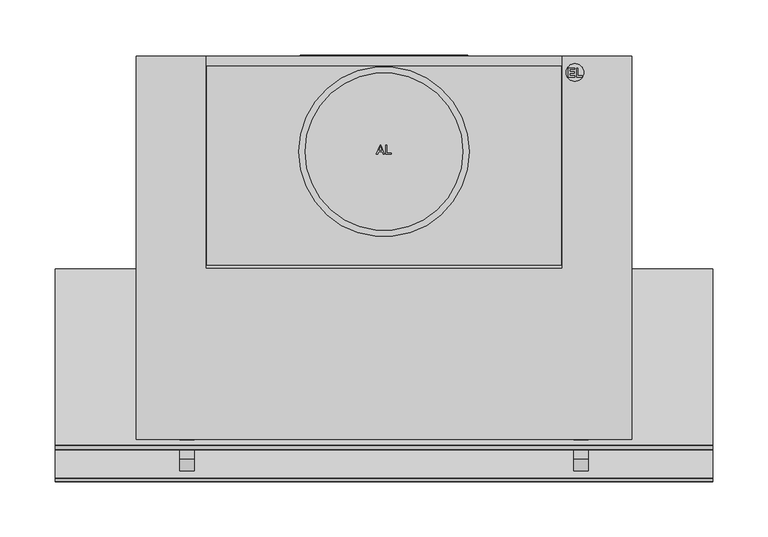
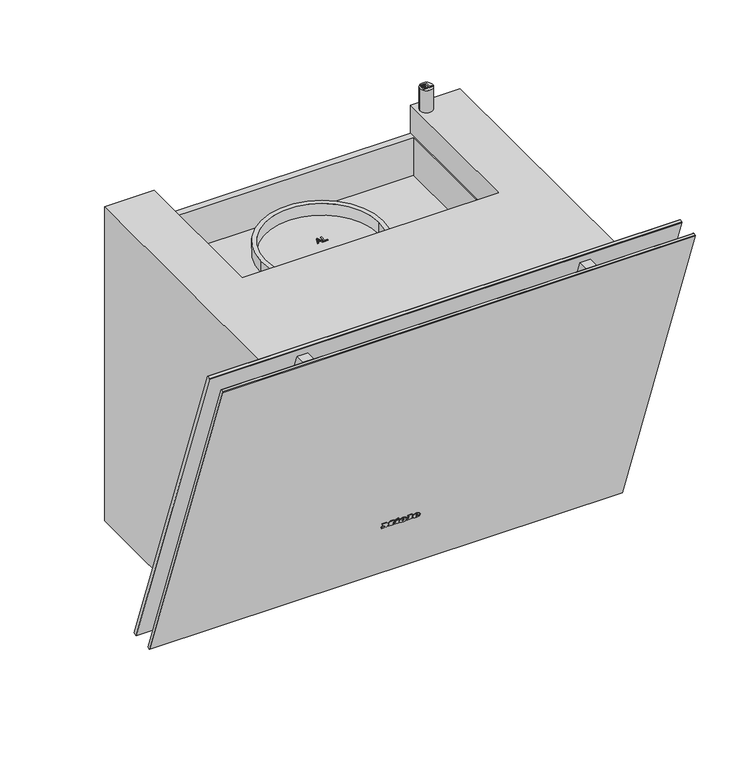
"""IFC4 building model written with IfcOpenShell, lengths in millimetres: proxy geometry, 12533930_D_DAH2660_GRGR : 28H2660G_D_12533930_DAH2660_GRGR."""

from ifc_helpers import new_model, si_unit, point, frame, frame_2d, origin, origin_with_axes, place, context, project, spatial, polyline, circle_curve, ellipse_curve, trimmed, segment, composite_curve, outline, extrude, faceted_brep, source, transform, mapped, element, save
from ifc_brep_helpers import plane_surface, cylinder_surface, revolved_surface, extruded_surface, advanced_brep


def specialty_equipment_7f73bf36(model_context):
    return source(origin(), model_context, "Body", "SolidModel", [
        extrude(outline(polyline([(0.0, 0.0), (0.968, 0.0), (0.968, 5.352), (0.0, 5.352), (0.0, 6.696), (3.52, 6.696), (3.52, 5.352), (2.56, 5.352), (2.56, 1.9488753), (6.136, 6.696), (9.728, 1.8807777), (9.728, 5.352), (8.744, 5.352), (8.744, 6.696), (15.128, 6.696), (15.128, 5.352), (14.112, 5.352), (14.112, 0.0), (15.128, 0.0), (15.128, -1.304), (10.256, -1.304), (7.92, 1.696), (5.576, -1.304), (0.0, -1.304), (0.0, 0.0)])), frame((-24.271984, -261.1380975, 82.2921818), z_axis=(0.0, 0.9396926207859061, 0.34202014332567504), x_axis=(1.0, 0.0, 0.0)), (0.0, 0.0, 1.0), 1.0),
        extrude(outline(polyline([(0.0, 0.0), (0.96, 0.0), (0.96, 5.352), (0.0, 5.352), (0.0, 6.696), (6.488, 6.696), (6.488, 5.352), (5.504, 5.352), (5.504, -1.304), (0.0, -1.304), (0.0, 0.0)])), frame((8.192016, -261.1380975, 82.2921818), z_axis=(0.0, 0.9396926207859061, 0.34202014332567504), x_axis=(1.0, 0.0, 0.0)), (0.0, 0.0, 1.0), 1.0),
        extrude(outline(polyline([(0.0, 0.0), (1.4315306, 0.0), (1.4390414, -2.9920869), (0.0109086, -2.9993294), (0.0, 0.0)])), frame((-6.351984, -261.4226582, 83.074006), z_axis=(0.0, 0.9396926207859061, 0.342020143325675), x_axis=(0.42472021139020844, 0.30963927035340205, -0.8507269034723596)), (0.0, 0.0, 1.0), 1.0),
        extrude(outline(polyline([(0.4933907, 2.4141097), (1.7898156, 3.022309), (2.1941493, 2.1604399), (5.1636141, 3.5535222), (4.7592805, 4.4153913), (5.9760369, 4.9862153), (8.6568708, -0.728194), (7.4401145, -1.299018), (7.0459741, -0.4588767), (2.7800843, -2.4601583), (0.4933907, 2.4141097)])), frame((-6.351984, -261.4226582, 83.074006), z_axis=(0.0, 0.9396926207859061, 0.342020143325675), x_axis=(0.42472021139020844, 0.30963927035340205, -0.8507269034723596)), (0.0, 0.0, 1.0), 1.0),
        advanced_brep(
        [(2.392016, -259.4964008, 77.7816572), (2.392016, -259.7727531, 78.5409288), (7.744016, -259.7727531, 78.5409288), (-1.567984, -259.7727531, 78.5409288), (0.632016, -258.8479306, 76.0), (7.608016, -259.4964008, 77.7816572), (5.192016, -259.4964008, 77.7816572), (3.288016, -259.1899507, 76.9396926), (2.392016, -260.1229817, 79.5031741), (2.392016, -260.4212233, 80.3225861), (3.760016, -260.4212233, 80.3225861), (3.760016, -260.1229817, 79.5031741), (2.392016, -258.5567082, 78.1236774), (3.288016, -258.2502581, 77.2817128), (5.192016, -258.5567082, 78.1236774), (7.608016, -258.5567082, 78.1236774), (0.632016, -257.908238, 76.3420201), (-1.567984, -258.8330604, 78.882949), (7.744016, -258.8330604, 78.882949), (2.392016, -258.8330604, 78.882949), (2.392016, -259.1832891, 79.8451942), (3.760016, -259.1832891, 79.8451942), (3.760016, -259.4815306, 80.6646062), (2.392016, -259.4815306, 80.6646062)],
        [
            (0, 1),
            (1, 2),
            (2, 3, ellipse_curve(frame((3.088016, -259.7727531, 78.5409288), z_axis=(0.0, -0.9396926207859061, -0.34202014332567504), x_axis=(-1.0, 0.0, 0.0)), 4.656, 3.848)),
            (3, 4, circle_curve(frame((1.5280596, -259.8657825, 78.7965252), z_axis=(0.0, -0.9396926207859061, -0.34202014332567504), x_axis=(0.0, 0.34202014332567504, -0.9396926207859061)), 3.1079688)),
            (4, 5, circle_curve(frame((2.9948096, -260.5881291, 80.7811561), z_axis=(0.0, -0.9396926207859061, -0.34202014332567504), x_axis=(0.0, 0.34202014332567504, -0.9396926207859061)), 5.6098607)),
            (5, 6),
            (6, 7, circle_curve(frame((3.6790748, -259.7508638, 78.4807885), z_axis=(0.0, 0.9396926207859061, 0.34202014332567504), x_axis=(0.0, 0.34202014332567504, -0.9396926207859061)), 1.6859795)),
            (7, 0, circle_curve(frame((3.288016, -259.4964008, 77.7816572), z_axis=(0.0, 0.9396926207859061, 0.34202014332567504), x_axis=(0.0, 0.34202014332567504, -0.9396926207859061)), 0.896)),
            (8, 9),
            (9, 10, circle_curve(frame((3.076016, -260.4212233, 80.3225861), z_axis=(0.0, 0.9396926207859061, 0.34202014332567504), x_axis=(0.0, 0.34202014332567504, -0.9396926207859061)), 0.684)),
            (10, 11),
            (11, 8),
            (12, 13, circle_curve(frame((3.288016, -258.5567082, 78.1236774), z_axis=(0.0, -0.9396926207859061, -0.34202014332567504), x_axis=(0.0, 0.34202014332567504, -0.9396926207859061)), 0.896)),
            (13, 14, circle_curve(frame((3.6790748, -258.8111712, 78.8228087), z_axis=(0.0, -0.9396926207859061, -0.34202014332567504), x_axis=(0.0, 0.34202014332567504, -0.9396926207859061)), 1.6859795)),
            (14, 15),
            (15, 16, circle_curve(frame((2.9948096, -259.6484365, 81.1231762), z_axis=(0.0, 0.9396926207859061, 0.34202014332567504), x_axis=(0.0, 0.34202014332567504, -0.9396926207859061)), 5.6098607)),
            (16, 17, circle_curve(frame((1.5280596, -258.9260899, 79.1385454), z_axis=(0.0, 0.9396926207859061, 0.34202014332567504), x_axis=(0.0, 0.34202014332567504, -0.9396926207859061)), 3.1079688)),
            (17, 18, ellipse_curve(frame((3.088016, -258.8330604, 78.882949), z_axis=(0.0, 0.9396926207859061, 0.34202014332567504), x_axis=(-1.0, 0.0, 0.0)), 4.656, 3.848)),
            (18, 19),
            (19, 12),
            (20, 21),
            (21, 22),
            (22, 23, circle_curve(frame((3.076016, -259.4815306, 80.6646062), z_axis=(0.0, -0.9396926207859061, -0.34202014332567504), x_axis=(0.0, 0.34202014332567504, -0.9396926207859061)), 0.684)),
            (23, 20),
            (0, 12),
            (19, 1),
            (18, 2),
            (5, 15),
            (14, 6),
            (17, 3),
            (13, 7),
            (16, 4),
            (8, 20),
            (23, 9),
            (22, 10),
            (21, 11),
        ],
        [
            plane_surface(frame((2.392016, -259.7727531, 78.5409288), z_axis=(0.0, -0.9396926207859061, -0.34202014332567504), x_axis=(0.0, -0.34202014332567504, 0.9396926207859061))),
            plane_surface(frame((2.392016, -258.8330604, 78.882949), z_axis=(0.0, 0.9396926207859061, 0.34202014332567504), x_axis=(0.0, 0.34202014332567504, -0.9396926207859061))),
            plane_surface(frame((2.392016, -259.4964008, 77.7816572), z_axis=(1.0, 0.0, 0.0), x_axis=(0.0, 0.9396926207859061, 0.34202014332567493))),
            plane_surface(frame((2.392016, -259.7727531, 78.5409288), z_axis=(0.0, 0.34202014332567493, -0.9396926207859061), x_axis=(0.0, 0.9396926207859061, 0.34202014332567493))),
            plane_surface(frame((7.608016, -259.4964008, 77.7816572), z_axis=(0.0, -0.34202014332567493, 0.9396926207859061), x_axis=(0.0, 0.9396926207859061, 0.34202014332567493))),
            extruded_surface(trimmed(ellipse_curve(frame((3.088016, -257.8933678, 79.2249691), z_axis=(0.0, -0.9396926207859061, -0.34202014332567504), x_axis=(-1.0, 0.0, 0.0)), 4.656, 3.848), [point((7.744016, -257.8933678, 79.2249691))], [point((-1.567984, -257.8933678, 79.2249691))], True, "CARTESIAN"), (0.0, -0.9396926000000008, -0.34202009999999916), 0.9999999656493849),
            revolved_surface(polyline([(3.6790748, -258.2345321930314, 77.23850622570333), (3.6790748, -259.1742248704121, 76.89648606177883)]), (3.6790748, -258.8111712, 78.8228087), (0.0, 0.9396926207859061, 0.34202014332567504)),
            revolved_surface(polyline([(3.288016, -258.25025810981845, 77.28171282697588), (3.288016, -259.1899507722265, 76.93969266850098)]), (3.288016, -258.5567082, 78.1236774), (0.0, 0.9396926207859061, 0.34202014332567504)),
            cylinder_surface(frame((1.5280596, -258.9260899, 79.1385454), z_axis=(0.0, -0.9396926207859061, -0.34202014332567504), x_axis=(0.0, 0.34202014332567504, -0.9396926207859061)), 3.1079688),
            cylinder_surface(frame((2.9948096, -259.6484365, 81.1231762), z_axis=(0.0, -0.9396926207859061, -0.34202014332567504), x_axis=(0.0, 0.34202014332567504, -0.9396926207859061)), 5.6098607),
            plane_surface(frame((2.392016, -260.1229817, 79.5031741), z_axis=(1.0, 0.0, 0.0), x_axis=(0.0, 0.9396926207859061, 0.34202014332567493))),
            revolved_surface(polyline([(3.076016, -259.2475888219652, 80.02185644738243), (3.076016, -260.1872814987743, 79.67983628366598)]), (3.076016, -259.4815306, 80.6646062), (0.0, 0.9396926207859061, 0.34202014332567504)),
            plane_surface(frame((3.760016, -260.4212233, 80.3225861), z_axis=(-1.0, 0.0, 0.0), x_axis=(0.0, 0.9396926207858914, 0.3420201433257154))),
            plane_surface(frame((3.760016, -260.1229817, 79.5031741), z_axis=(0.0, -0.34202014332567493, 0.9396926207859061), x_axis=(0.0, 0.9396926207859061, 0.34202014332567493))),
        ],
        [
            (0, [[1, 2, 3, 4, 5, 6, 7, 8], [9, 10, 11, 12]]),
            (1, [[13, 14, 15, 16, 17, 18, 19, 20], [21, 22, 23, 24]]),
            (2, [[-1, 25, -20, 26]]),
            (3, [[-2, -26, -19, 27]]),
            (4, [[-6, 28, -15, 29]]),
            (5, [[-3, -27, -18, 30]]),
            (6, [[-7, -29, -14, 31]]),
            (7, [[-8, -31, -13, -25]]),
            (8, [[-4, -30, -17, 32]]),
            (9, [[-5, -32, -16, -28]]),
            (10, [[-9, 33, -24, 34]]),
            (11, [[-10, -34, -23, 35]]),
            (12, [[-11, -35, -22, 36]]),
            (13, [[-12, -36, -21, -33]]),
        ],
    ),
        advanced_brep(
        [(19.088016, -259.4964008, 77.7816572), (19.088016, -259.7727531, 78.5409288), (24.440016, -259.7727531, 78.5409288), (15.128016, -259.7727531, 78.5409288), (17.328016, -258.8479306, 76.0), (24.304016, -259.4964008, 77.7816572), (21.888016, -259.4964008, 77.7816572), (19.984016, -259.1899507, 76.9396926), (19.088016, -260.1229817, 79.5031741), (19.088016, -260.4212233, 80.3225861), (20.456016, -260.4212233, 80.3225861), (20.456016, -260.1229817, 79.5031741), (19.088016, -258.5567082, 78.1236774), (19.984016, -258.2502581, 77.2817128), (21.888016, -258.5567082, 78.1236774), (24.304016, -258.5567082, 78.1236774), (17.328016, -257.908238, 76.3420201), (15.128016, -258.8330604, 78.882949), (24.440016, -258.8330604, 78.882949), (19.088016, -258.8330604, 78.882949), (19.088016, -259.1832891, 79.8451942), (20.456016, -259.1832891, 79.8451942), (20.456016, -259.4815306, 80.6646062), (19.088016, -259.4815306, 80.6646062)],
        [
            (0, 1),
            (1, 2),
            (2, 3, ellipse_curve(frame((19.784016, -259.7727531, 78.5409288), z_axis=(0.0, -0.9396926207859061, -0.34202014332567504), x_axis=(-1.0, 0.0, 0.0)), 4.656, 3.848)),
            (3, 4, circle_curve(frame((18.2240596, -259.8657825, 78.7965252), z_axis=(0.0, -0.9396926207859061, -0.34202014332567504), x_axis=(0.0, 0.34202014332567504, -0.9396926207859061)), 3.1079688)),
            (4, 5, circle_curve(frame((19.6908096, -260.5881291, 80.7811561), z_axis=(0.0, -0.9396926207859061, -0.34202014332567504), x_axis=(0.0, 0.34202014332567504, -0.9396926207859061)), 5.6098607)),
            (5, 6),
            (6, 7, circle_curve(frame((20.3750748, -259.7508638, 78.4807885), z_axis=(0.0, 0.9396926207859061, 0.34202014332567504), x_axis=(0.0, 0.34202014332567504, -0.9396926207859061)), 1.6859795)),
            (7, 0, circle_curve(frame((19.984016, -259.4964008, 77.7816572), z_axis=(0.0, 0.9396926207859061, 0.34202014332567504), x_axis=(0.0, 0.34202014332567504, -0.9396926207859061)), 0.896)),
            (8, 9),
            (9, 10, circle_curve(frame((19.772016, -260.4212233, 80.3225861), z_axis=(0.0, 0.9396926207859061, 0.34202014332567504), x_axis=(0.0, 0.34202014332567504, -0.9396926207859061)), 0.684)),
            (10, 11),
            (11, 8),
            (12, 13, circle_curve(frame((19.984016, -258.5567082, 78.1236774), z_axis=(0.0, -0.9396926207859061, -0.34202014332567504), x_axis=(0.0, 0.34202014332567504, -0.9396926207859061)), 0.896)),
            (13, 14, circle_curve(frame((20.3750748, -258.8111712, 78.8228087), z_axis=(0.0, -0.9396926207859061, -0.34202014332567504), x_axis=(0.0, 0.34202014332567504, -0.9396926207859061)), 1.6859795)),
            (14, 15),
            (15, 16, circle_curve(frame((19.6908096, -259.6484365, 81.1231762), z_axis=(0.0, 0.9396926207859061, 0.34202014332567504), x_axis=(0.0, 0.34202014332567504, -0.9396926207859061)), 5.6098607)),
            (16, 17, circle_curve(frame((18.2240596, -258.9260899, 79.1385454), z_axis=(0.0, 0.9396926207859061, 0.34202014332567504), x_axis=(0.0, 0.34202014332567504, -0.9396926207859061)), 3.1079688)),
            (17, 18, ellipse_curve(frame((19.784016, -258.8330604, 78.882949), z_axis=(0.0, 0.9396926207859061, 0.34202014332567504), x_axis=(-1.0, 0.0, 0.0)), 4.656, 3.848)),
            (18, 19),
            (19, 12),
            (20, 21),
            (21, 22),
            (22, 23, circle_curve(frame((19.772016, -259.4815306, 80.6646062), z_axis=(0.0, -0.9396926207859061, -0.34202014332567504), x_axis=(0.0, 0.34202014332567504, -0.9396926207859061)), 0.684)),
            (23, 20),
            (0, 12),
            (19, 1),
            (18, 2),
            (5, 15),
            (14, 6),
            (17, 3),
            (13, 7),
            (16, 4),
            (8, 20),
            (23, 9),
            (22, 10),
            (21, 11),
        ],
        [
            plane_surface(frame((19.088016, -259.7727531, 78.5409288), z_axis=(0.0, -0.9396926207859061, -0.34202014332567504), x_axis=(0.0, -0.34202014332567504, 0.9396926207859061))),
            plane_surface(frame((19.088016, -258.8330604, 78.882949), z_axis=(0.0, 0.9396926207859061, 0.34202014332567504), x_axis=(0.0, 0.34202014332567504, -0.9396926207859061))),
            plane_surface(frame((19.088016, -259.4964008, 77.7816572), z_axis=(1.0, 0.0, 0.0), x_axis=(0.0, 0.9396926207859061, 0.34202014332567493))),
            plane_surface(frame((19.088016, -259.7727531, 78.5409288), z_axis=(0.0, 0.34202014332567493, -0.9396926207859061), x_axis=(0.0, 0.9396926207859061, 0.34202014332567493))),
            plane_surface(frame((24.304016, -259.4964008, 77.7816572), z_axis=(0.0, -0.34202014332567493, 0.9396926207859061), x_axis=(0.0, 0.9396926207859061, 0.34202014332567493))),
            extruded_surface(trimmed(ellipse_curve(frame((19.784016, -257.8933678, 79.2249691), z_axis=(0.0, -0.9396926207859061, -0.34202014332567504), x_axis=(-1.0, 0.0, 0.0)), 4.656, 3.848), [point((24.440016, -257.8933678, 79.2249691))], [point((15.128016, -257.8933678, 79.2249691))], True, "CARTESIAN"), (0.0, -0.9396926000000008, -0.34202009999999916), 0.9999999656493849),
            revolved_surface(polyline([(20.3750748, -258.2345321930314, 77.23850622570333), (20.3750748, -259.1742248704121, 76.89648606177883)]), (20.3750748, -258.8111712, 78.8228087), (0.0, 0.9396926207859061, 0.34202014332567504)),
            revolved_surface(polyline([(19.984016, -258.25025810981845, 77.28171282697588), (19.984016, -259.1899507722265, 76.93969266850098)]), (19.984016, -258.5567082, 78.1236774), (0.0, 0.9396926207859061, 0.34202014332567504)),
            cylinder_surface(frame((18.2240596, -258.9260899, 79.1385454), z_axis=(0.0, -0.9396926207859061, -0.34202014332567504), x_axis=(0.0, 0.34202014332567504, -0.9396926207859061)), 3.1079688),
            cylinder_surface(frame((19.6908096, -259.6484365, 81.1231762), z_axis=(0.0, -0.9396926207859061, -0.34202014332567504), x_axis=(0.0, 0.34202014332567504, -0.9396926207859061)), 5.6098607),
            plane_surface(frame((19.088016, -260.1229817, 79.5031741), z_axis=(1.0, 0.0, 0.0), x_axis=(0.0, 0.9396926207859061, 0.34202014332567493))),
            revolved_surface(polyline([(19.772016, -259.2475888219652, 80.02185644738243), (19.772016, -260.1872814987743, 79.67983628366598)]), (19.772016, -259.4815306, 80.6646062), (0.0, 0.9396926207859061, 0.34202014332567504)),
            plane_surface(frame((20.456016, -260.4212233, 80.3225861), z_axis=(-1.0, 0.0, 0.0), x_axis=(0.0, 0.9396926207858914, 0.3420201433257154))),
            plane_surface(frame((20.456016, -260.1229817, 79.5031741), z_axis=(0.0, -0.34202014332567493, 0.9396926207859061), x_axis=(0.0, 0.9396926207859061, 0.34202014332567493))),
        ],
        [
            (0, [[1, 2, 3, 4, 5, 6, 7, 8], [9, 10, 11, 12]]),
            (1, [[13, 14, 15, 16, 17, 18, 19, 20], [21, 22, 23, 24]]),
            (2, [[-1, 25, -20, 26]]),
            (3, [[-2, -26, -19, 27]]),
            (4, [[-6, 28, -15, 29]]),
            (5, [[-3, -27, -18, 30]]),
            (6, [[-7, -29, -14, 31]]),
            (7, [[-8, -31, -13, -25]]),
            (8, [[-4, -30, -17, 32]]),
            (9, [[-5, -32, -16, -28]]),
            (10, [[-9, 33, -24, 34]]),
            (11, [[-10, -34, -23, 35]]),
            (12, [[-11, -35, -22, 36]]),
            (13, [[-12, -36, -21, -33]]),
        ],
    ),
        advanced_brep(
        [(-198.5, -225.9485265, 82.132138), (-198.5, -235.8911369, 109.4492355), (-198.5, -230.9198317, 95.7906867), (-198.5, -231.2422284, 80.5173231), (-198.5, -240.9843308, 107.2835295), (-198.5, -250.514978, 76.8365225), (-198.5, -258.1140866, 97.7149017), (-198.5, -251.4164577, 77.3487429), (-198.5, -258.4754112, 96.7430581), (-198.5, -254.9459345, 87.0459005)],
        [
            (0, 1, circle_curve(frame((-198.5, -230.9198317, 95.7906867), z_axis=(0.0, 0.9396926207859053, 0.3420201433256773), x_axis=(0.0, -0.3420201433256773, 0.9396926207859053)), 14.535124)),
            (1, 2),
            (2, 0),
            (1, 0, circle_curve(frame((-198.5, -230.9198317, 95.7906867), z_axis=(0.0, 0.9396926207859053, 0.3420201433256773), x_axis=(0.0, -0.3420201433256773, 0.9396926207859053)), 14.535124)),
            (3, 4, circle_curve(frame((-198.5, -236.1132796, 93.9004263), z_axis=(0.0, 0.9396926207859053, 0.3420201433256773), x_axis=(0.0, -0.3420201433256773, 0.9396926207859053)), 14.2420009)),
            (4, 1),
            (0, 3),
            (4, 3, circle_curve(frame((-198.5, -236.1132796, 93.9004263), z_axis=(0.0, 0.9396926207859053, 0.3420201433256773), x_axis=(0.0, -0.3420201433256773, 0.9396926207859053)), 14.2420009)),
            (5, 6, circle_curve(frame((-198.5, -254.3145323, 87.2757121), z_axis=(0.0, 0.9396926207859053, 0.3420201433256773), x_axis=(0.0, -0.3420201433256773, 0.9396926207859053)), 11.1091535)),
            (6, 4),
            (3, 5),
            (6, 5, circle_curve(frame((-198.5, -254.3145323, 87.2757121), z_axis=(0.0, 0.9396926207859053, 0.3420201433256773), x_axis=(0.0, -0.3420201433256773, 0.9396926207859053)), 11.1091535)),
            (7, 8, circle_curve(frame((-198.5, -254.9459345, 87.0459005), z_axis=(0.0, 0.9396926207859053, 0.3420201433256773), x_axis=(0.0, -0.3420201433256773, 0.9396926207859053)), 10.3194996)),
            (8, 6),
            (5, 7),
            (8, 7, circle_curve(frame((-198.5, -254.9459345, 87.0459005), z_axis=(0.0, 0.9396926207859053, 0.3420201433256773), x_axis=(0.0, -0.3420201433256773, 0.9396926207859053)), 10.3194996)),
            (9, 8),
            (7, 9),
        ],
        [
            plane_surface(frame((-198.5, -230.9198317, 95.7906867), z_axis=(0.0, 0.9396926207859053, 0.3420201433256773), x_axis=(0.0, -0.3420201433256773, 0.9396926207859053))),
            revolved_surface(polyline([(-198.5, -235.8312261, 109.4708926), (-198.5, -240.9843308, 107.2835295)]), (-198.5, -255.2773841, 86.9252627), (0.0, -0.9396926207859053, -0.3420201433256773)),
            revolved_surface(polyline([(-198.5, -240.9843308, 107.2835295), (-198.5, -258.1140866, 97.7149017)]), (-198.5, -255.2773841, 86.9252627), (0.0, -0.9396926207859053, -0.3420201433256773)),
            revolved_surface(polyline([(-198.5, -258.1140866, 97.7149017), (-198.5, -258.4754112, 96.7430581)]), (-198.5, -255.2773841, 86.9252627), (0.0, -0.9396926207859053, -0.3420201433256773)),
            plane_surface(frame((-198.5, -254.9459345, 87.0459005), z_axis=(0.0, -0.9396926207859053, -0.3420201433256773), x_axis=(0.0, -0.3420201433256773, 0.9396926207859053))),
        ],
        [
            (0, [[1, 2, 3]]),
            (0, [[4, -3, -2]]),
            (1, [[5, 6, -1, 7]]),
            (1, [[8, -7, -4, -6]]),
            (2, [[9, 10, -5, 11]]),
            (2, [[12, -11, -8, -10]]),
            (3, [[13, 14, -9, 15]]),
            (3, [[16, -15, -12, -14]]),
            (4, [[17, -13, 18]]),
            (4, [[-18, -16, -17]]),
        ],
    ),
        advanced_brep(
        [(-198.5, -249.4001153, 68.4387353), (-198.5, -262.8067778, 105.2732379), (-198.5, -257.0531232, 93.8737841), (-198.5, -252.3199878, 80.8696014), (-198.5, -250.699917, 68.232867), (-198.5, -263.9348133, 104.5954458), (-198.5, -257.3173652, 86.4141564), (-198.5, -254.6865555, 87.3716928)],
        [
            (0, 1, circle_curve(frame((-198.5, -256.1034466, 86.8559866), z_axis=(0.0, 0.9396926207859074, 0.34202014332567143), x_axis=(0.0, -0.34202014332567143, 0.9396926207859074)), 19.5992294)),
            (1, 2),
            (2, 3, circle_curve(frame((-198.5, -254.6865555, 87.3716928), z_axis=(0.0, -0.9396926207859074, -0.34202014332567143), x_axis=(0.0, -0.34202014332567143, 0.9396926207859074)), 6.9193811)),
            (3, 0),
            (1, 0, circle_curve(frame((-198.5, -256.1034466, 86.8559866), z_axis=(0.0, 0.9396926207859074, 0.34202014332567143), x_axis=(0.0, -0.34202014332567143, 0.9396926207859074)), 19.5992294)),
            (3, 2, circle_curve(frame((-198.5, -254.6865555, 87.3716928), z_axis=(0.0, -0.9396926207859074, -0.34202014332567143), x_axis=(0.0, -0.34202014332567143, 0.9396926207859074)), 6.9193811)),
            (4, 5, circle_curve(frame((-198.5, -257.3173652, 86.4141564), z_axis=(0.0, 0.9396926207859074, 0.34202014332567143), x_axis=(0.0, -0.34202014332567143, 0.9396926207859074)), 19.3481241)),
            (5, 1),
            (0, 4),
            (5, 4, circle_curve(frame((-198.5, -257.3173652, 86.4141564), z_axis=(0.0, 0.9396926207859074, 0.34202014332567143), x_axis=(0.0, -0.34202014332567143, 0.9396926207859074)), 19.3481241)),
            (6, 5),
            (4, 6),
            (2, 7),
            (7, 3),
        ],
        [
            revolved_surface(polyline([(-198.5, -257.0531232, 93.8737841), (-198.5, -262.8067778, 105.2732379)]), (-198.5, -254.6865555, 87.3716928), (0.0, -0.9396926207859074, -0.34202014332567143)),
            revolved_surface(polyline([(-198.5, -262.8067778, 105.2732379), (-198.5, -263.9348133, 104.5954458)]), (-198.5, -254.6865555, 87.3716928), (0.0, -0.9396926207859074, -0.34202014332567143)),
            plane_surface(frame((-198.5, -257.3173652, 86.4141564), z_axis=(0.0, -0.9396926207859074, -0.34202014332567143), x_axis=(0.0, -0.34202014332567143, 0.9396926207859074))),
            plane_surface(frame((-198.5, -254.6865555, 87.3716928), z_axis=(0.0, 0.9396926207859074, 0.34202014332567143), x_axis=(0.0, -0.34202014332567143, 0.9396926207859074))),
        ],
        [
            (0, [[1, 2, 3, 4]]),
            (0, [[5, -4, 6, -2]]),
            (1, [[7, 8, -1, 9]]),
            (1, [[10, -9, -5, -8]]),
            (2, [[11, -7, 12]]),
            (2, [[-12, -10, -11]]),
            (3, [[-3, 13, 14]]),
            (3, [[-6, -14, -13]]),
        ],
    ),
        advanced_brep(
        [(198.5, -230.9018417, 95.8650227), (198.5, -235.8509293, 109.4625291), (198.5, -225.9091808, 82.1477994), (198.5, -240.9843308, 107.2835295), (198.5, -231.2422284, 80.5173231), (198.5, -258.1140866, 97.7149017), (198.5, -250.514978, 76.8365225), (198.5, -258.4754112, 96.7430581), (198.5, -251.4164577, 77.3487429), (198.5, -254.9459345, 87.0459005)],
        [
            (0, 1),
            (1, 2, circle_curve(frame((198.5, -230.8800551, 95.8051643), z_axis=(0.0, 0.9396926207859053, 0.3420201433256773), x_axis=(0.0, -0.3420201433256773, 0.9396926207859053)), 14.5338641)),
            (2, 0),
            (2, 1, circle_curve(frame((198.5, -230.8800551, 95.8051643), z_axis=(0.0, 0.9396926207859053, 0.3420201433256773), x_axis=(0.0, -0.3420201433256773, 0.9396926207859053)), 14.5338641)),
            (1, 3),
            (3, 4, circle_curve(frame((198.5, -236.1132796, 93.9004263), z_axis=(0.0, 0.9396926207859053, 0.3420201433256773), x_axis=(0.0, -0.3420201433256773, 0.9396926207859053)), 14.2420009)),
            (4, 2),
            (4, 3, circle_curve(frame((198.5, -236.1132796, 93.9004263), z_axis=(0.0, 0.9396926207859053, 0.3420201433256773), x_axis=(0.0, -0.3420201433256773, 0.9396926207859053)), 14.2420009)),
            (3, 5),
            (5, 6, circle_curve(frame((198.5, -254.3145323, 87.2757121), z_axis=(0.0, 0.9396926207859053, 0.3420201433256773), x_axis=(0.0, -0.3420201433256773, 0.9396926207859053)), 11.1091535)),
            (6, 4),
            (6, 5, circle_curve(frame((198.5, -254.3145323, 87.2757121), z_axis=(0.0, 0.9396926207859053, 0.3420201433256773), x_axis=(0.0, -0.3420201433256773, 0.9396926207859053)), 11.1091535)),
            (5, 7),
            (7, 8, circle_curve(frame((198.5, -254.9459345, 87.0459005), z_axis=(0.0, 0.9396926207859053, 0.3420201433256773), x_axis=(0.0, -0.3420201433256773, 0.9396926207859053)), 10.3194996)),
            (8, 6),
            (8, 7, circle_curve(frame((198.5, -254.9459345, 87.0459005), z_axis=(0.0, 0.9396926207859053, 0.3420201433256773), x_axis=(0.0, -0.3420201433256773, 0.9396926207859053)), 10.3194996)),
            (7, 9),
            (9, 8),
        ],
        [
            plane_surface(frame((198.5, -230.8800551, 95.8051643), z_axis=(0.0, 0.9396926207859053, 0.3420201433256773), x_axis=(0.0, -0.3420201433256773, 0.9396926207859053))),
            revolved_surface(polyline([(198.5, -240.9843308, 107.2835295), (198.5, -235.8509293, 109.4625291)]), (198.5, -255.2773841, 86.9252627), (0.0, 0.9396926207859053, 0.3420201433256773)),
            revolved_surface(polyline([(198.5, -258.1140866, 97.7149017), (198.5, -240.9843308, 107.2835295)]), (198.5, -255.2773841, 86.9252627), (0.0, 0.9396926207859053, 0.3420201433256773)),
            revolved_surface(polyline([(198.5, -258.4754112, 96.7430581), (198.5, -258.1140866, 97.7149017)]), (198.5, -255.2773841, 86.9252627), (0.0, 0.9396926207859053, 0.3420201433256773)),
            plane_surface(frame((198.5, -254.9459345, 87.0459005), z_axis=(0.0, -0.9396926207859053, -0.3420201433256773), x_axis=(0.0, -0.3420201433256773, 0.9396926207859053))),
        ],
        [
            (0, [[1, 2, 3]]),
            (0, [[-3, 4, -1]]),
            (1, [[-2, 5, 6, 7]]),
            (1, [[-4, -7, 8, -5]]),
            (2, [[-6, 9, 10, 11]]),
            (2, [[-8, -11, 12, -9]]),
            (3, [[-10, 13, 14, 15]]),
            (3, [[-12, -15, 16, -13]]),
            (4, [[-14, 17, 18]]),
            (4, [[-16, -18, -17]]),
        ],
    ),
        advanced_brep(
        [(198.5, -252.3199878, 80.8696014), (198.5, -257.0531232, 93.8737841), (198.5, -262.8067778, 105.2732379), (198.5, -249.4001153, 68.4387353), (198.5, -263.9348133, 104.5954458), (198.5, -250.699917, 68.232867), (198.5, -257.3173652, 86.4141564), (198.5, -254.6865555, 87.3716928)],
        [
            (0, 1, circle_curve(frame((198.5, -254.6865555, 87.3716928), z_axis=(0.0, -0.9396926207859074, -0.34202014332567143), x_axis=(0.0, -0.34202014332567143, 0.9396926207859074)), 6.9193811)),
            (1, 2),
            (2, 3, circle_curve(frame((198.5, -256.1034466, 86.8559866), z_axis=(0.0, 0.9396926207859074, 0.34202014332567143), x_axis=(0.0, -0.34202014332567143, 0.9396926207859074)), 19.5992294)),
            (3, 0),
            (1, 0, circle_curve(frame((198.5, -254.6865555, 87.3716928), z_axis=(0.0, -0.9396926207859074, -0.34202014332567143), x_axis=(0.0, -0.34202014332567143, 0.9396926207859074)), 6.9193811)),
            (3, 2, circle_curve(frame((198.5, -256.1034466, 86.8559866), z_axis=(0.0, 0.9396926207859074, 0.34202014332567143), x_axis=(0.0, -0.34202014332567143, 0.9396926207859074)), 19.5992294)),
            (2, 4),
            (4, 5, circle_curve(frame((198.5, -257.3173652, 86.4141564), z_axis=(0.0, 0.9396926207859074, 0.34202014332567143), x_axis=(0.0, -0.34202014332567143, 0.9396926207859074)), 19.3481241)),
            (5, 3),
            (5, 4, circle_curve(frame((198.5, -257.3173652, 86.4141564), z_axis=(0.0, 0.9396926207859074, 0.34202014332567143), x_axis=(0.0, -0.34202014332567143, 0.9396926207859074)), 19.3481241)),
            (4, 6),
            (6, 5),
            (7, 1),
            (0, 7),
        ],
        [
            revolved_surface(polyline([(198.5, -262.8067778, 105.2732379), (198.5, -257.0531232, 93.8737841)]), (198.5, -254.6865555, 87.3716928), (0.0, 0.9396926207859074, 0.34202014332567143)),
            revolved_surface(polyline([(198.5, -263.9348133, 104.5954458), (198.5, -262.8067778, 105.2732379)]), (198.5, -254.6865555, 87.3716928), (0.0, 0.9396926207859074, 0.34202014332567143)),
            plane_surface(frame((198.5, -257.3173652, 86.4141564), z_axis=(0.0, -0.9396926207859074, -0.34202014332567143), x_axis=(0.0, -0.34202014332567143, 0.9396926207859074))),
            plane_surface(frame((198.5, -254.6865555, 87.3716928), z_axis=(0.0, 0.9396926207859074, 0.34202014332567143), x_axis=(0.0, -0.34202014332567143, 0.9396926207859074))),
        ],
        [
            (0, [[1, 2, 3, 4]]),
            (0, [[5, -4, 6, -2]]),
            (1, [[-3, 7, 8, 9]]),
            (1, [[-6, -9, 10, -7]]),
            (2, [[-8, 11, 12]]),
            (2, [[-10, -12, -11]]),
            (3, [[13, -1, 14]]),
            (3, [[-14, -5, -13]]),
        ],
    ),
        extrude(outline(polyline([(-377.2541471, 415.9959153), (-366.2530147, 420.0), (-348.8949883, 420.0), (-315.0686278, 327.0628384), (-321.2276447, 324.8211395), (-334.9582954, 325.4920509), (-347.6637142, 334.6968691), (-377.2541471, 415.9959153)])), frame((-185.7167767, 0.0, 0.0), z_axis=(1.0, 0.0, 0.0), x_axis=(0.0, 1.0, 0.0)), (0.0, 0.0, 1.0), 13.4088513),
        extrude(outline(polyline([(-377.2541471, 415.9959153), (-366.2530147, 420.0), (-348.8949883, 420.0), (-315.0686278, 327.0628384), (-321.2276447, 324.8211395), (-334.9582954, 325.4920509), (-347.6637142, 334.6968691), (-377.2541471, 415.9959153)])), frame((172.3079253, 0.0, 0.0), z_axis=(1.0, 0.0, 0.0), x_axis=(0.0, 1.0, 0.0)), (0.0, 0.0, 1.0), 13.4088513),
        extrude(outline(polyline([(-387.1323401, 432.8365045), (-384.310791, 433.8634644), (-383.5944926, 433.4158714), (-223.2772642, -7.0520936), (-223.5613092, -7.7920563), (-226.3696341, -8.8142029), (-227.0596169, -8.4158411), (-387.3899893, 432.0882368), (-387.1323401, 432.8365045)])), frame((-299.0, 0.0, 0.0), z_axis=(1.0, 0.0, 0.0), x_axis=(0.0, 1.0, 0.0)), (0.0, 0.0, 1.0), 598.0),
        extrude(outline(polyline([(-357.7500767, 432.8365045), (-354.6517562, 433.9642009), (-353.7790899, 433.4190033), (-193.5484199, -6.8114741), (-193.8719465, -7.7304916), (-196.9340313, -8.8449984), (-197.6773535, -8.4158411), (-358.007726, 432.0882368), (-357.7500767, 432.8365045)])), frame((-299.0, 0.0, 0.0), z_axis=(1.0, 0.0, 0.0), x_axis=(0.0, 1.0, 0.0)), (0.0, 0.0, 1.0), 598.0),
        extrude(outline(polyline([(-287.1198024, 229.753659), (-287.6205942, 218.2841221), (-296.0848836, 210.5280081), (-301.7042998, 208.4827078), (-327.3688694, 278.9955333), (-319.9071972, 281.7113599), (-309.7792372, 280.1072486), (-302.5107089, 272.039827), (-287.1198024, 229.753659)])), frame((182.9499624, 0.0, 0.0), z_axis=(1.0, 0.0, 0.0), x_axis=(0.0, 1.0, 0.0)), (0.0, 0.0, 1.0), 3.1163744),
        extrude(outline(composite_curve([segment(trimmed(circle_curve(frame_2d((0.0, -6.0)), 6.0), [point((0.0, -12.0))], [point((0.0, 0.0))], False, "CARTESIAN"), True, "CONTINUOUS"), segment(trimmed(circle_curve(frame_2d((0.0, -6.0)), 6.0), [point((0.0, 0.0))], [point((0.0, -12.0))], False, "CARTESIAN"), True, "CONTINUOUS")], self_intersect=False)), frame((198.4796168, -304.9287055, 251.8746642), z_axis=(0.0, -0.3420201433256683, 0.9396926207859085), x_axis=(0.0, -0.9396926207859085, -0.3420201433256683)), (0.0, 0.0, 1.0), 126.121517),
        faceted_brep([(225.0000193, -349.0, 420.0), (225.0000193, -196.2332597, 0.0), (225.0000193, 0.0, 0.0), (225.0000193, 0.0, 420.0), (-225.0000193, -349.0, 420.0), (-225.0000193, 0.0, 420.0), (-225.0000193, 0.0, 0.0), (-225.0000193, -196.2332597, 0.0), (176.5, -48.0, 0.0), (-176.5, -48.0, 0.0), (-176.5, -181.0, 0.0), (176.5, -181.0, 0.0), (125.0, -12.0, 0.0), (-125.0, -12.0, 0.0), (-125.0, -38.0, 0.0), (125.0, -38.0, 0.0), (-162.2229137, 0.0, 420.0), (-162.2229137, 0.0, 382.5), (162.2229137, 0.0, 382.5), (162.2229137, 0.0, 420.0), (-160.9556997, -9.0, 332.0), (160.9556997, -9.0, 332.0), (160.9556997, -9.0, 382.5), (-160.9556997, -9.0, 382.5), (-160.9556997, -190.0399284, 332.0), (-160.9556997, -190.0399284, 382.5), (160.9556997, -190.0399284, 332.0), (160.9556997, -190.0399284, 382.5), (176.5, -48.0, 11.0), (-176.5, -48.0, 11.0), (125.0, -12.0, 11.0), (-125.0, -12.0, 11.0), (162.2229137, -193.2332597, 420.0), (-162.2229137, -193.2332597, 420.0), (176.5, -181.0, 11.0), (-176.5, -181.0, 11.0), (125.0, -38.0, 11.0), (-125.0, -38.0, 11.0), (162.2229137, -193.2332597, 382.5), (-162.2229137, -193.2332597, 382.5)], [[[0, 1, 2, 3]], [[4, 5, 6, 7]], [[1, 0, 4, 7]], [[2, 1, 7, 6], [8, 9, 10, 11], [12, 13, 14, 15]], [[3, 2, 6, 5, 16, 17, 18, 19]], [[20, 21, 22, 23]], [[24, 20, 23, 25]], [[21, 26, 27, 22]], [[28, 29, 9, 8]], [[30, 31, 13, 12]], [[0, 3, 19, 32, 33, 16, 5, 4]], [[21, 20, 24, 26]], [[26, 24, 25, 27]], [[28, 34, 35, 29]], [[29, 35, 10, 9]], [[35, 34, 11, 10]], [[34, 28, 8, 11]], [[30, 36, 37, 31]], [[31, 37, 14, 13]], [[37, 36, 15, 14]], [[36, 30, 12, 15]], [[32, 38, 39, 33]], [[39, 38, 18, 17], [23, 22, 27, 25]], [[38, 32, 19, 18]], [[33, 39, 17, 16]]]),
        extrude(outline(polyline([(125.0, -12.0), (125.0, -38.0), (-125.0, -38.0), (-125.0, -12.0), (125.0, -12.0)]), holes=[polyline([(-119.0, -31.2), (119.0, -31.2), (119.0, -18.8), (-119.0, -18.8), (-119.0, -31.2)])]), origin_with_axes(), (0.0, 0.0, 1.0), 11.0),
        extrude(outline(polyline([(119.0, -18.8), (119.0, -31.2), (-119.0, -31.2), (-119.0, -18.8), (119.0, -18.8)])), origin_with_axes(), (0.0, 0.0, 1.0), 11.0),
        extrude(outline(polyline([(176.5, -48.0), (176.5, -181.0), (-176.5, -181.0), (-176.5, -48.0), (176.5, -48.0)]), holes=[polyline([(167.5, -57.0), (-167.5, -57.0), (-167.5, -172.0), (167.5, -172.0), (167.5, -57.0)])]), origin_with_axes(), (0.0, 0.0, 1.0), 11.0),
        extrude(outline(polyline([(167.5, -57.0), (167.5, -172.0), (-167.5, -172.0), (-167.5, -57.0), (167.5, -57.0)])), frame((0.0, 0.0, 1.0), z_axis=(0.0, 0.0, 1.0), x_axis=(1.0, 0.0, 0.0)), (0.0, 0.0, 1.0), 10.0),
        extrude(outline(polyline([(-167.5, -98.0), (-124.5000193, -98.0), (-124.5000193, -131.0), (-167.5, -131.0), (-167.5, -98.0)]), holes=[polyline([(-131.0000193, -104.5), (-160.0000193, -104.5), (-160.0000193, -124.5), (-131.0000193, -124.5), (-131.0000193, -104.5)])]), origin_with_axes(), (0.0, 0.0, 1.0), 1.0),
        extrude(outline(polyline([(-131.0000193, -104.5), (-131.0000193, -124.5), (-140.0000193, -124.5), (-140.0000193, -104.5), (-131.0000193, -104.5)])), origin_with_axes(), (0.0, 0.0, 1.0), 1.0),
        extrude(outline(composite_curve([segment(trimmed(circle_curve(frame_2d((0.0, -86.9971466)), 77.2963157), [point((-77.2963157, -86.9971466))], [point((77.2963157, -86.9971466))], False, "CARTESIAN"), True, "CONTINUOUS"), segment(trimmed(circle_curve(frame_2d((0.0, -86.9971466)), 77.2963157), [point((77.2963157, -86.9971466))], [point((-77.2963157, -86.9971466))], False, "CARTESIAN"), True, "CONTINUOUS")], self_intersect=False), holes=[composite_curve([segment(trimmed(circle_curve(frame_2d((0.0, -86.9971466)), 71.617422), [point((-71.617422, -86.9971466))], [point((71.617422, -86.9971466))], True, "CARTESIAN"), True, "CONTINUOUS"), segment(trimmed(circle_curve(frame_2d((0.0, -86.9971466)), 71.617422), [point((71.617422, -86.9971466))], [point((-71.617422, -86.9971466))], True, "CARTESIAN"), True, "CONTINUOUS")], self_intersect=False)]), frame((0.0, 0.0, 332.0), z_axis=(0.0, 0.0, 1.0), x_axis=(1.0, 0.0, 0.0)), (0.0, 0.0, 1.0), 15.9326282),
        extrude(outline(polyline([(-6.835738, -89.2416424), (-3.627807, -81.2051375), (-2.7723587, -81.2051375), (0.4336102, -89.2416424), (-0.6278519, -89.2416424), (-1.5460854, -86.7302346), (-4.8580044, -86.7302346), (-5.7762378, -89.2416424), (-6.835738, -89.2416424)]), holes=[polyline([(-4.4891414, -85.7256715), (-1.9129864, -85.7256715), (-2.6389402, -83.7498999), (-3.2020449, -82.2097006), (-3.7023644, -83.5772407), (-4.4891414, -85.7256715)])]), frame((0.0, 0.0, 347.9326282), z_axis=(0.0, 0.0, 1.0), x_axis=(1.0, 0.0, 0.0)), (0.0, 0.0, 1.0), 1.0),
        extrude(outline(polyline([(1.5068447, -89.2416424), (1.5068447, -81.2051375), (2.5114078, -81.2051375), (2.5114078, -88.2370793), (6.5296602, -88.2370793), (6.5296602, -89.2416424), (1.5068447, -89.2416424)])), frame((0.0, 0.0, 347.9326282), z_axis=(0.0, 0.0, 1.0), x_axis=(1.0, 0.0, 0.0)), (0.0, 0.0, 1.0), 1.0),
        extrude(outline(composite_curve([segment(trimmed(circle_curve(frame_2d((192.5519409, 0.0)), 76.1990432), [point((192.5519409, -76.1990432))], [point((192.5519409, 76.1990432))], False, "CARTESIAN"), True, "CONTINUOUS"), segment(trimmed(circle_curve(frame_2d((192.5519409, 0.0)), 76.1990432), [point((192.5519409, 76.1990432))], [point((192.5519409, -76.1990432))], False, "CARTESIAN"), True, "CONTINUOUS")], self_intersect=False)), frame((0.0, 0.0, 0.0), z_axis=(0.0, 1.0, 0.0), x_axis=(0.0, 0.0, 1.0)), (0.0, 0.0, 1.0), 1.0),
        extrude(outline(composite_curve([segment(trimmed(circle_curve(frame_2d((173.4999807, -15.0000005)), 8.0), [point((165.4999807, -15.0000005))], [point((181.4999807, -15.0000005))], False, "CARTESIAN"), True, "CONTINUOUS"), segment(trimmed(circle_curve(frame_2d((173.4999807, -15.0000005)), 8.0), [point((181.4999807, -15.0000005))], [point((165.4999807, -15.0000005))], False, "CARTESIAN"), True, "CONTINUOUS")], self_intersect=False)), frame((0.0, 0.0, 420.0), z_axis=(0.0, 0.0, 1.0), x_axis=(1.0, 0.0, 0.0)), (0.0, 0.0, 1.0), 30.0),
        extrude(outline(polyline([(167.5981725, -19.0000005), (167.5981725, -10.9634957), (173.3744104, -10.9634957), (173.3744104, -11.9680588), (168.6027356, -11.9680588), (168.6027356, -14.3538961), (173.1232696, -14.3538961), (173.1232696, -15.3584592), (168.6027356, -15.3584592), (168.6027356, -17.9954374), (173.4999807, -17.9954374), (173.4999807, -19.0000005), (167.5981725, -19.0000005)])), frame((0.0, 0.0, 450.0), z_axis=(0.0, 0.0, 1.0), x_axis=(1.0, 0.0, 0.0)), (0.0, 0.0, 1.0), 1.0),
        extrude(outline(polyline([(175.0068254, -19.0000005), (175.0068254, -10.9634957), (176.0113885, -10.9634957), (176.0113885, -17.9954374), (180.0296409, -17.9954374), (180.0296409, -19.0000005), (175.0068254, -19.0000005)])), frame((0.0, 0.0, 450.0), z_axis=(0.0, 0.0, 1.0), x_axis=(1.0, 0.0, 0.0)), (0.0, 0.0, 1.0), 1.0),
    ])


if __name__ == "__main__":
    model = new_model("IFC4")
    model_context = context("Model", 3, world=origin())
    ifc_project = project(units=[si_unit("LENGTHUNIT", "METRE", prefix="MILLI")], contexts=[model_context])
    site = spatial("IfcSite", under=ifc_project)
    building = spatial("IfcBuilding", under=site)
    placement = place(None, origin())
    specialty_equipment_shape = specialty_equipment_7f73bf36(model_context)
    element("IfcBuildingElementProxy", 1, Name="12533930_D_DAH2660_GRGR : 28H2660G_D_12533930_DAH2660_GRGR", ObjectType="12533930_D_DAH2660_GRGR : 28H2660G_D_12533930_DAH2660_GRGR", at=placement, inside=building, context=model_context, shape_type="MappedRepresentation", body=[
        mapped(specialty_equipment_shape, transform((0.0, 0.0, 0.0), x_axis=(1.0, 0.0, 0.0), y_axis=(0.0, 1.0, 0.0), z_axis=(0.0, 0.0, 1.0))),
    ])
    save(model, "model.ifc")
